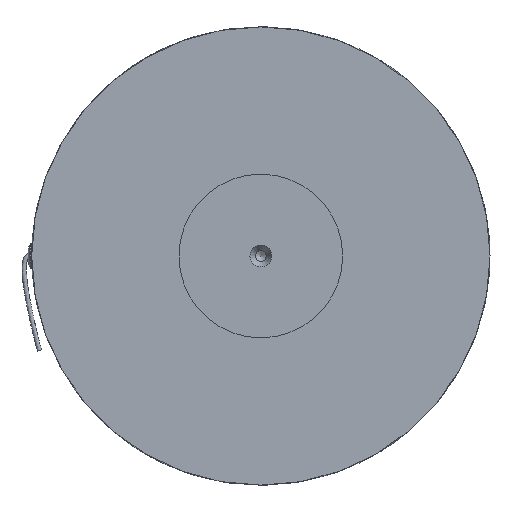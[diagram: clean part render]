
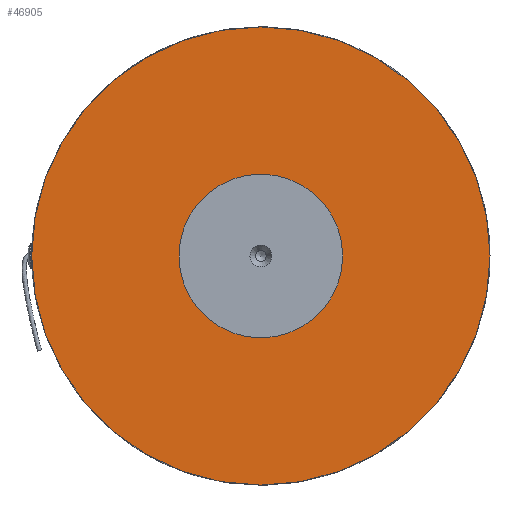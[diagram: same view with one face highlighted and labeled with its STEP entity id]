
A CAD part, left-side view. The second image highlights one B-rep face of the part: STEP entity #46905.
In plain terms, the highlighted planar face has unit normal (-1, 0, 0).
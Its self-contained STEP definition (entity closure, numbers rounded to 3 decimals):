
#172=FACE_BOUND('',#4342,.T.);
#423=PLANE('',#51312);
#1817=FACE_OUTER_BOUND('',#4341,.T.);
#4341=EDGE_LOOP('',(#34173));
#4342=EDGE_LOOP('',(#34174));
#13378=CIRCLE('',#51313,105.);
#13379=CIRCLE('',#51314,37.5);
#17920=VERTEX_POINT('',#77880);
#17921=VERTEX_POINT('',#77882);
#23772=EDGE_CURVE('',#17920,#17920,#13378,.T.);
#23773=EDGE_CURVE('',#17921,#17921,#13379,.T.);
#34173=ORIENTED_EDGE('',*,*,#23772,.T.);
#34174=ORIENTED_EDGE('',*,*,#23773,.F.);
#46905=ADVANCED_FACE('',(#1817,#172),#423,.T.);
#51312=AXIS2_PLACEMENT_3D('',#77879,#62402,#62403);
#51313=AXIS2_PLACEMENT_3D('',#77881,#62404,#62405);
#51314=AXIS2_PLACEMENT_3D('',#77883,#62406,#62407);
#62402=DIRECTION('center_axis',(-1.,0.,0.));
#62403=DIRECTION('ref_axis',(0.,0.,1.));
#62404=DIRECTION('center_axis',(-1.,0.,0.));
#62405=DIRECTION('ref_axis',(0.,0.,1.));
#62406=DIRECTION('center_axis',(-1.,0.,0.));
#62407=DIRECTION('ref_axis',(0.,0.,1.));
#77879=CARTESIAN_POINT('Origin',(-57.5,37.5,0.));
#77880=CARTESIAN_POINT('',(-57.5,-105.,0.));
#77881=CARTESIAN_POINT('Origin',(-57.5,0.,0.));
#77882=CARTESIAN_POINT('',(-57.5,-37.5,0.));
#77883=CARTESIAN_POINT('Origin',(-57.5,0.,0.));
